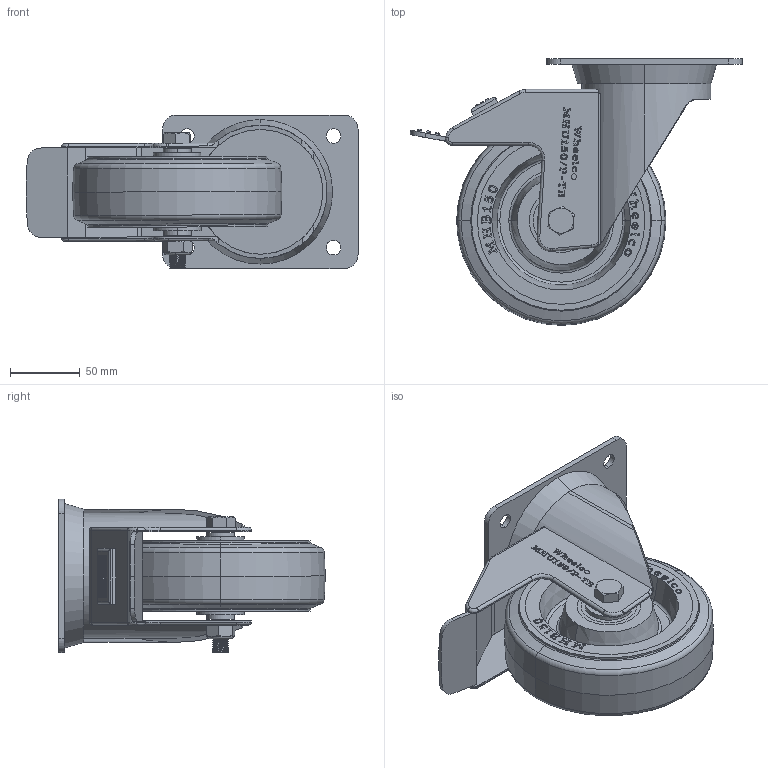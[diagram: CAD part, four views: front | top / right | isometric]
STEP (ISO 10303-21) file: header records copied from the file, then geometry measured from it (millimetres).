
FILE_DESCRIPTION (( 'STEP AP214' ), '1' );
FILE_NAME ('MHB150-P-TB.step', '2023-12-04T19:32:51', ( '' ), ( '' ), 'SwSTEP 2.0', 'SolidWorks 2022', '' );
FILE_SCHEMA (( 'AUTOMOTIVE_DESIGN' ));
Length unit declared in the file: millimetre
Products named in the file (8): 140X110 PLATE; M12NYLOC; MHU150-P-TB; MHB150-P-TB; SP20-12-62; 20mm Plastic Washer BLACK; M12 X 90; MHB150
Assembly tree (8 placements, depth 2):
  MHB150-P-TB
    M12 X 90
    M12NYLOC
    SP20-12-62
    20mm Plastic Washer BLACK  x2
    MHU150-P-TB
    140X110 PLATE
    MHB150
Bounding box: 237.87 x 191 x 110.25 mm (x, y, z)
Volume: 777499.1 mm3; surface area: 211202.3 mm2
Topology: 7 solids, 8 shells, 1055 faces, 2813 edges, 1845 vertices
Faces by surface type: plane 591, bspline 239, cylinder 160, cone 34, torus 31
Entity records: 50634 total; most frequent: CARTESIAN_POINT 24945, ORIENTED_EDGE 5602, DIRECTION 4047, EDGE_CURVE 2801, VECTOR 1873, LINE 1873, VERTEX_POINT 1839, EDGE_LOOP 1144
